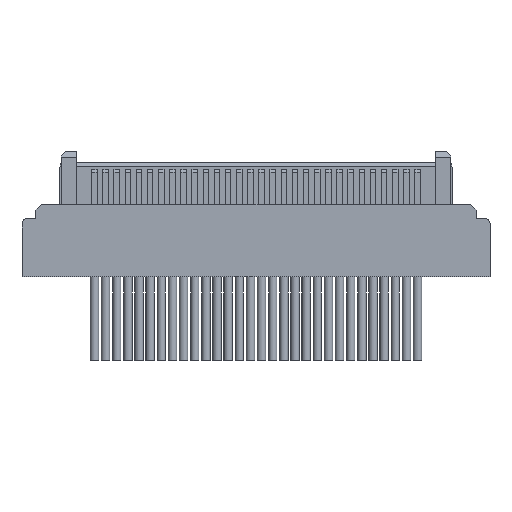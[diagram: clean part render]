
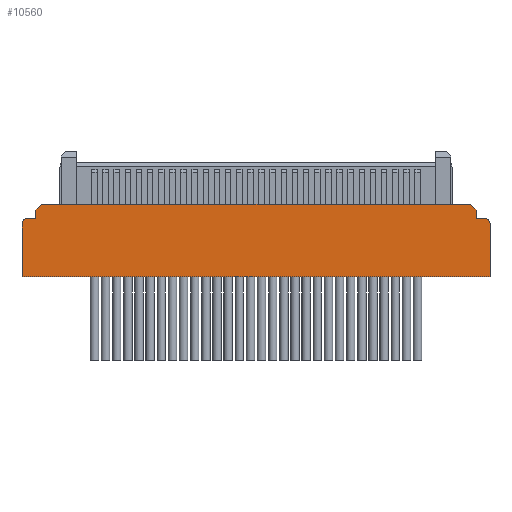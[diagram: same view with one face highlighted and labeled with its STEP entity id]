
A CAD part, top view. The second image highlights one B-rep face of the part: STEP entity #10560.
In plain terms, the highlighted planar face has unit normal (0, 0, 1).
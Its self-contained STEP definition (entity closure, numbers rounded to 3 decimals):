
#920=CARTESIAN_POINT('',(34.799,-17.464,1.));
#930=VERTEX_POINT('',#920);
#960=CARTESIAN_POINT('',(34.799,-17.764,1.));
#970=DIRECTION('',(0.,1.,0.));
#980=VECTOR('',#970,1.);
#990=LINE('',#960,#980);
#1000=CARTESIAN_POINT('',(34.799,-17.764,1.));
#1010=VERTEX_POINT('',#1000);
#1020=EDGE_CURVE('',#1010,#930,#990,.T.);
#1270=CARTESIAN_POINT('',(34.799,-17.764,1.));
#1280=DIRECTION('',(-1.,0.,0.));
#1290=VECTOR('',#1280,1.);
#1300=LINE('',#1270,#1290);
#1310=CARTESIAN_POINT('',(34.499,-17.764,1.));
#1320=VERTEX_POINT('',#1310);
#1330=EDGE_CURVE('',#1010,#1320,#1300,.T.);
#1580=CARTESIAN_POINT('',(34.499,-17.964,1.));
#1590=DIRECTION('',(0.,0.,1.));
#1600=DIRECTION('',(-1.,0.,0.));
#1610=AXIS2_PLACEMENT_3D('',#1580,#1590,#1600);
#1620=CIRCLE('',#1610,0.2);
#1630=CARTESIAN_POINT('',(34.299,-17.964,1.));
#1640=VERTEX_POINT('',#1630);
#1650=EDGE_CURVE('',#1320,#1640,#1620,.T.);
#3410=CARTESIAN_POINT('',(34.299,-19.864,1.));
#3420=DIRECTION('',(0.,1.,0.));
#3430=VECTOR('',#3420,1.);
#3440=LINE('',#3410,#3430);
#3450=CARTESIAN_POINT('',(34.299,-19.864,1.));
#3460=VERTEX_POINT('',#3450);
#3470=EDGE_CURVE('',#3460,#1640,#3440,.T.);
#8620=CARTESIAN_POINT('',(34.999,-17.264,1.));
#8630=VERTEX_POINT('',#8620);
#8660=CARTESIAN_POINT('',(34.999,-17.264,1.));
#8670=DIRECTION('',(-0.707,-0.707,0.));
#8680=VECTOR('',#8670,1.);
#8690=LINE('',#8660,#8680);
#8700=EDGE_CURVE('',#8630,#930,#8690,.T.);
#9080=CARTESIAN_POINT('',(51.099,-19.864,1.));
#9090=VERTEX_POINT('',#9080);
#9120=CARTESIAN_POINT('',(51.099,-19.864,1.));
#9130=DIRECTION('',(0.,1.,0.));
#9140=VECTOR('',#9130,1.);
#9150=LINE('',#9120,#9140);
#9160=CARTESIAN_POINT('',(51.099,-17.964,1.));
#9170=VERTEX_POINT('',#9160);
#9180=EDGE_CURVE('',#9090,#9170,#9150,.T.);
#9360=CARTESIAN_POINT('',(50.899,-17.964,1.));
#9370=DIRECTION('',(0.,0.,1.));
#9380=DIRECTION('',(-1.,0.,0.));
#9390=AXIS2_PLACEMENT_3D('',#9360,#9370,#9380);
#9400=CIRCLE('',#9390,0.2);
#9410=CARTESIAN_POINT('',(50.899,-17.764,1.));
#9420=VERTEX_POINT('',#9410);
#9430=EDGE_CURVE('',#9170,#9420,#9400,.T.);
#9610=CARTESIAN_POINT('',(50.599,-17.764,1.));
#9620=DIRECTION('',(1.,0.,0.));
#9630=VECTOR('',#9620,1.);
#9640=LINE('',#9610,#9630);
#9650=CARTESIAN_POINT('',(50.599,-17.764,1.));
#9660=VERTEX_POINT('',#9650);
#9670=EDGE_CURVE('',#9660,#9420,#9640,.T.);
#9850=CARTESIAN_POINT('',(50.599,-17.464,1.));
#9860=DIRECTION('',(0.,-1.,0.));
#9870=VECTOR('',#9860,1.);
#9880=LINE('',#9850,#9870);
#9890=CARTESIAN_POINT('',(50.599,-17.464,1.));
#9900=VERTEX_POINT('',#9890);
#9910=EDGE_CURVE('',#9900,#9660,#9880,.T.);
#10090=CARTESIAN_POINT('',(50.399,-17.264,1.));
#10100=DIRECTION('',(0.707,-0.707,-0.));
#10110=VECTOR('',#10100,1.);
#10120=LINE('',#10090,#10110);
#10130=CARTESIAN_POINT('',(50.399,-17.264,1.));
#10140=VERTEX_POINT('',#10130);
#10150=EDGE_CURVE('',#10140,#9900,#10120,.T.);
#10270=CARTESIAN_POINT('',(35.914,-10.012,1.));
#10280=DIRECTION('',(0.,0.,-1.));
#10290=DIRECTION('',(-1.,0.,0.));
#10300=AXIS2_PLACEMENT_3D('',#10270,#10280,#10290);
#10310=PLANE('',#10300);
#10320=ORIENTED_EDGE('',*,*,#9430,.T.);
#10330=ORIENTED_EDGE('',*,*,#9180,.T.);
#10340=CARTESIAN_POINT('',(55.099,-19.864,1.));
#10350=DIRECTION('',(-1.,0.,0.));
#10360=VECTOR('',#10350,1.);
#10370=LINE('',#10340,#10360);
#10380=EDGE_CURVE('',#9090,#3460,#10370,.T.);
#10390=ORIENTED_EDGE('',*,*,#10380,.F.);
#10400=ORIENTED_EDGE('',*,*,#3470,.F.);
#10410=ORIENTED_EDGE('',*,*,#1650,.T.);
#10420=ORIENTED_EDGE('',*,*,#1330,.T.);
#10430=ORIENTED_EDGE('',*,*,#1020,.F.);
#10440=ORIENTED_EDGE('',*,*,#8700,.T.);
#10450=CARTESIAN_POINT('',(35.914,-17.264,1.));
#10460=DIRECTION('',(-1.,0.,0.));
#10470=VECTOR('',#10460,1.);
#10480=LINE('',#10450,#10470);
#10490=EDGE_CURVE('',#10140,#8630,#10480,.T.);
#10500=ORIENTED_EDGE('',*,*,#10490,.T.);
#10510=ORIENTED_EDGE('',*,*,#10150,.F.);
#10520=ORIENTED_EDGE('',*,*,#9910,.F.);
#10530=ORIENTED_EDGE('',*,*,#9670,.F.);
#10540=EDGE_LOOP('',(#10530,#10520,#10510,#10500,#10440,#10430,#10420,
#10410,#10400,#10390,#10330,#10320));
#10550=FACE_OUTER_BOUND('',#10540,.T.);
#10560=ADVANCED_FACE('',(#10550),#10310,.F.);
